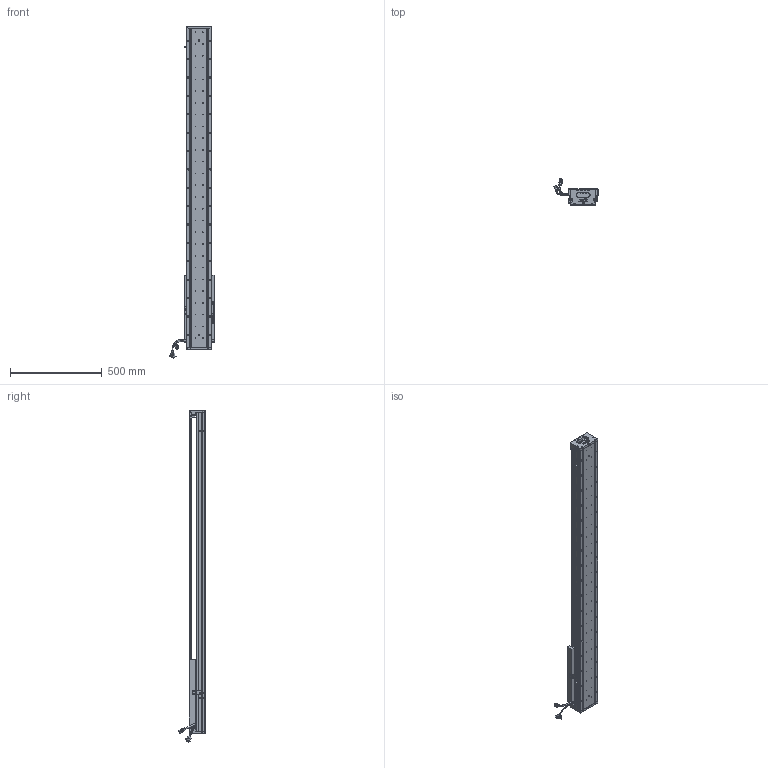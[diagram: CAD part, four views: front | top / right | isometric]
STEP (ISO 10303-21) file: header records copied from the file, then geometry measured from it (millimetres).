
FILE_DESCRIPTION (( 'STEP AP203' ), '1' );
FILE_NAME ('Z5-RY140D-1-L500-B-K.SLDASM_1300.step', '2021-05-17T08:36:26', ( '盈信电脑' ), ( '东莞市道滘镇水果街19号' ), 'SwSTEP 2.0', 'SolidWorks 2016', '' );
FILE_SCHEMA (( 'CONFIG_CONTROL_DESIGN' ));
Length unit declared in the file: millimetre
Products named in the file (36): Z5-RY140圉猾敕臏賑輸(21遴); 詩湍奻揤裔; COVER-Part-1; LABEL-Part-1; SEAL-Part-1; PSLH080_PSLF2; COVER; HARNESS-Part-1; Z-RY140感应器672光电感应片; 詩湍狟揤裔; SCREW-M1.7; PBU_SHEET; SCALE-Part-2; 覜茼ん672; SCREW-M1.6; HARNESS-Part-2; HARNESS; Z5-RY140-L500詩湍100mm遵_1300; 榋妏寠巭燃_暯_M2_2; LABEL; Z-140詩湍傷裔啣; SCALE-Part-1; Z5-RY140D-1-L500-B-K.SLDASM_1300; 140雄赽晤鎢ん堤盄; 140蚥薯蝶輸; SCREW-M1.6-2; Z5-RY140-L500直线电机模组底座_1300; SCREW-M1.6-1; 140-Z-臏賑輸盄裔(21遴); SHIELDPLATE; SEAL; SCALE; SCREW-M1.6-3; 080黍杅芛假蚾釱21遴; HOLDER0; SCREW-M1.7-1
Assembly tree (41 placements, depth 4):
  Z5-RY140D-1-L500-B-K.SLDASM_1300
    Z5-RY140-L500直线电机模组底座_1300
    Z-RY140感应器672光电感应片
    Z5-RY140圉猾敕臏賑輸(21遴)
    覜茼ん672  x3
    Z5-RY140-L500詩湍100mm遵_1300
    PSLH080_PSLF2
      SCALE
        SCALE-Part-1
        SCALE-Part-2
      HARNESS
        HARNESS-Part-1
        HARNESS-Part-2
      LABEL
        LABEL-Part-1
      COVER
        COVER-Part-1
      SEAL
        SEAL-Part-1
      榋妏寠巭燃_暯_M2_2
      SHIELDPLATE
      SCREW-M1.7
      SCREW-M1.7-1
      PBU_SHEET
      SCREW-M1.6
      SCREW-M1.6-1
      SCREW-M1.6-2
      SCREW-M1.6-3
      HOLDER0
    080黍杅芛假蚾釱21遴
    140-Z-臏賑輸盄裔(21遴)
    Z-140詩湍傷裔啣  x2
    詩湍狟揤裔  x2
    詩湍奻揤裔  x2
    140蚥薯蝶輸  x2
    140雄赽晤鎢ん堤盄
Bounding box: 239.83 x 143.88 x 1805.87 mm (x, y, z)
Volume: 6501499 mm3; surface area: 1647284.1 mm2
Topology: 36 solids, 36 shells, 3540 faces, 9484 edges, 6009 vertices
Faces by surface type: cylinder 1818, plane 1254, cone 346, torus 69, bspline 53
Entity records: 108360 total; most frequent: CARTESIAN_POINT 28925, ORIENTED_EDGE 16000, DIRECTION 15360, EDGE_CURVE 8000, AXIS2_PLACEMENT_3D 5708, VERTEX_POINT 5177, VECTOR 3944, LINE 3944
